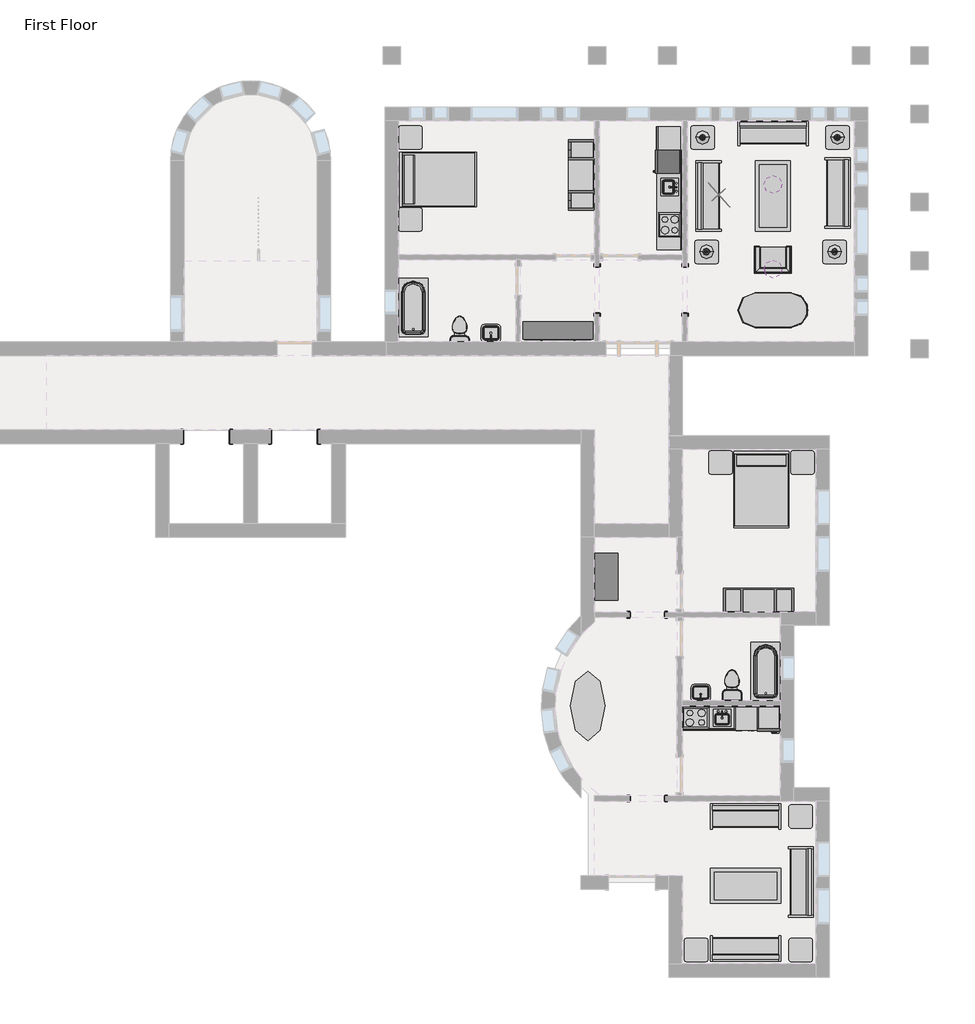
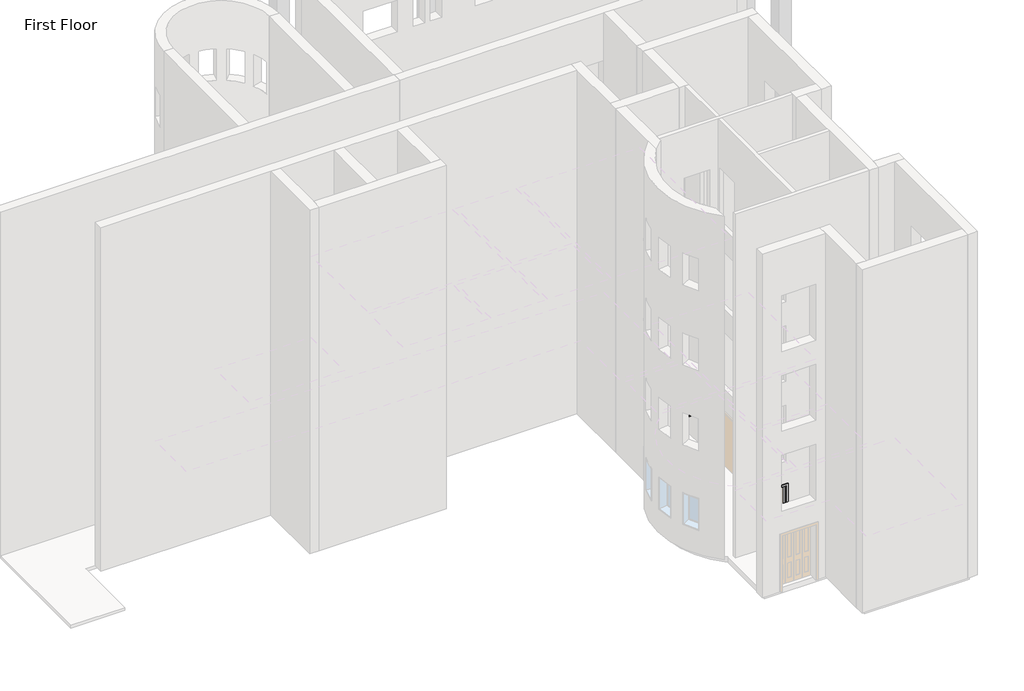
# One storey, part 8 of 8: 30 furniture elements, 15 proxies, 8 flow terminals, 6 light fixtures.
"""IFC4 building model written with IfcOpenShell, lengths in millimetres."""

from ifc_helpers import new_model, si_unit, origin, place, context, project, spatial, transform, mapped, element, save
from components import proxy_dfcd9396, proxy_3c49123c, proxy_7a545507, m_cook_top_4_unit2_0615_x_500mm_249f3515, m_dishwasher_610_x_610_x_875mm_54ecfc4c, m_kitchenette_medium_1372mm_e05c6bec, m_passage_opening_cased_0915_x_2134mm_b7ef4dee, m_refrigerator_600_x_660mm_a466bf94, proxy_f44482cc, proxy_c3589814, rpc_female_69e001fa, proxy_ec3341c2, m_sink_kitchen_island_450_x_450mm_f969cf2d, m_sink_vanity_square_500_x_440mm_1e229b74, m_toilet_domestic_3d_m_toilet_domestic_3d_5cb52bd4, m_toilet_domestic_3d_m_toilet_domestic_3d_183bbd19, m_tub_rectangular_3d_m_tub_rectangular_3d_3da3e62d, flow_terminal_41332a36, flow_terminal_62a433f7, toilet_domestic_3d_toilet_domestic_3d_f7549cf7, tub_rectangular_3d_tub_rectangular_3d_15036965, furniture_096e7f55, chair_corbu_chair_corbu_2764bdef, furniture_6db689a5, furniture_7c473f12, furniture_cf0b6580, m_counter_top_w_sink_hole_600mm_depth_08c4f679, m_dresser_1220_x_1525_x_0610mm_18e1f140, m_entertainment_center_1830_x_1830_x_0610mm_f77a9b93, m_sofa_1830mm_f9e8a66b, m_table_coffee_0915_x_1830_x_0457mm_134cd960, m_table_ellipse_1800_x_900mm_fd46d5a5, m_table_end_0610_x_0160mm_cb6ea12e, furniture_a4ffab56, furniture_cd93a443, furniture_2c34a4f9, furniture_3a588284, pendant_light_disk_100w_120v_c68bffb6, table_lamp_standard_60w_120v_6e8cd8b1

model = new_model("IFC4")

# Units and contexts
model_context = context("Model", 3, world=origin())
ifc_project = project(units=[si_unit("LENGTHUNIT", "METRE", prefix="MILLI")], contexts=[model_context])

# Site, building, storey
site = spatial("IfcSite", under=ifc_project)
building = spatial("IfcBuilding", under=site)
storey = spatial("IfcBuildingStorey", under=building, Name="First Floor", Elevation=0.0)

# Proxies
placement = place(None, origin())
proxy_shape = proxy_dfcd9396(model_context)
element("IfcBuildingElementProxy", 1, Name="Cook Top-4 Unit2 : 22\" x 20\"", ObjectType="Cook Top-4 Unit2 : 22\" x 20\"", at=placement, inside=storey, context=model_context, shape_type="MappedRepresentation", body=[
    mapped(proxy_shape, transform((-4167.1589563, 7568.5224391, 0.0), x_axis=(0.0, 1.0000000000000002, 0.0), y_axis=(-1.0000000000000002, 0.0, 0.0), z_axis=(0.0, 0.0, 1.0))),
])
proxy_2_shape = proxy_3c49123c(model_context)
element("IfcBuildingElementProxy", 2, Name="Dishwasher : 24\" x 24\" x 34\"", ObjectType="Dishwasher : 24\" x 24\" x 34\"", at=placement, inside=storey, context=model_context, shape_type="MappedRepresentation", body=[
    mapped(proxy_2_shape, transform((-4459.0085211, 9434.1049706, 0.0), x_axis=(0.0, 1.0000000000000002, 0.0), y_axis=(-1.0000000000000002, 0.0, 0.0), z_axis=(0.0, 0.0, 1.0))),
])
proxy_3_shape = proxy_7a545507(model_context)
element("IfcBuildingElementProxy", 3, Name="Kitchenette - Medium : 8'6\"", ObjectType="Kitchenette - Medium : 8'6\"", at=placement, inside=storey, context=model_context, shape_type="MappedRepresentation", body=[
    mapped(proxy_3_shape, transform((-3862.3589563, 8197.4847342, 0.0), x_axis=(0.0, 1.0000000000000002, 0.0), y_axis=(-1.0000000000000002, 0.0, 0.0), z_axis=(0.0, 0.0, 1.0))),
])
m_cook_top_4_unit2_0615_x_500mm_shape = m_cook_top_4_unit2_0615_x_500mm_249f3515(model_context)
element("IfcBuildingElementProxy", 4, Name="M_Cook Top-4 Unit2 : 0615 x 500mm", ObjectType="M_Cook Top-4 Unit2 : 0615 x 500mm", at=placement, inside=storey, context=model_context, shape_type="MappedRepresentation", body=[
    mapped(m_cook_top_4_unit2_0615_x_500mm_shape, transform((-3495.1714563, -5234.2683133, 0.0), x_axis=(1.0, 0.0, 0.0), y_axis=(0.0, 1.0, 0.0), z_axis=(0.0, 0.0, 1.0))),
])
m_dishwasher_610_x_610_x_875mm_shape = m_dishwasher_610_x_610_x_875mm_54ecfc4c(model_context)
element("IfcBuildingElementProxy", 5, Name="M_Dishwasher : 610 x 610 x 875mm", ObjectType="M_Dishwasher : 610 x 610 x 875mm", at=placement, inside=storey, context=model_context, shape_type="MappedRepresentation", body=[
    mapped(m_dishwasher_610_x_610_x_875mm_shape, transform((-2579.6889248, -5500.9178781, 0.0), x_axis=(1.0, 0.0, 0.0), y_axis=(0.0, 1.0, 0.0), z_axis=(0.0, 0.0, 1.0))),
])
m_kitchenette_medium_1372mm_shape = m_kitchenette_medium_1372mm_e05c6bec(model_context)
element("IfcBuildingElementProxy", 6, Name="M_Kitchenette - Medium : 1372mm", ObjectType="M_Kitchenette - Medium : 1372mm", at=placement, inside=storey, context=model_context, shape_type="MappedRepresentation", body=[
    mapped(m_kitchenette_medium_1372mm_shape, transform((-3170.9091612, -4929.2683133, 0.0), x_axis=(1.0, 0.0, 0.0), y_axis=(0.0, 1.0, 0.0), z_axis=(0.0, 0.0, 1.0))),
])
m_passage_opening_cased_0915_x_2134mm_shape = m_passage_opening_cased_0915_x_2134mm_b7ef4dee(model_context)
element("IfcBuildingElementProxy", 7, Name="M_Passage Opening-Cased : 0915 x 2134mm", ObjectType="M_Passage Opening-Cased : 0915 x 2134mm", at=placement, inside=storey, context=model_context, shape_type="MappedRepresentation", body=[
    mapped(m_passage_opening_cased_0915_x_2134mm_shape, transform((-4759.560113, -7332.1683133, 0.0), x_axis=(-1.0, 0.0, 0.0), y_axis=(0.0, -1.0, 0.0), z_axis=(0.0, 0.0, 1.0))),
])
element("IfcBuildingElementProxy", 8, Name="M_Passage Opening-Cased : 0915 x 2134mm", ObjectType="M_Passage Opening-Cased : 0915 x 2134mm", at=placement, inside=storey, context=model_context, shape_type="MappedRepresentation", body=[
    mapped(m_passage_opening_cased_0915_x_2134mm_shape, transform((-4759.560113, -2560.1683133, 0.0), x_axis=(-1.0, 0.0, 0.0), y_axis=(0.0, -1.0, 0.0), z_axis=(0.0, 0.0, 1.0))),
])
m_refrigerator_600_x_660mm_shape = m_refrigerator_600_x_660mm_a466bf94(model_context)
element("IfcBuildingElementProxy", 9, Name="M_Refrigerator : 600 x 660mm", ObjectType="M_Refrigerator : 600 x 660mm", at=placement, inside=storey, context=model_context, shape_type="MappedRepresentation", body=[
    mapped(m_refrigerator_600_x_660mm_shape, transform((-1538.3703137, -5225.4834035, 0.0), x_axis=(1.0, 0.0, 0.0), y_axis=(0.0, 1.0, 0.0), z_axis=(0.0, 0.0, 1.0))),
])
proxy_4_shape = proxy_f44482cc(model_context)
element("IfcBuildingElementProxy", 10, Name="Opening-Cased : 48\" x 84\"", ObjectType="Opening-Cased : 48\" x 84\"", at=placement, inside=storey, context=model_context, shape_type="MappedRepresentation", body=[
    mapped(proxy_4_shape, transform((-3773.4589563, 5882.4203434, 0.0), x_axis=(0.0, 1.0, 0.0), y_axis=(-1.0, 0.0, 0.0), z_axis=(0.0, 0.0, 1.0))),
])
element("IfcBuildingElementProxy", 11, Name="Opening-Cased : 48\" x 84\"", ObjectType="Opening-Cased : 48\" x 84\"", at=placement, inside=storey, context=model_context, shape_type="MappedRepresentation", body=[
    mapped(proxy_4_shape, transform((-6059.4589563, 5866.04303, 0.0), x_axis=(0.0, -1.0, 0.0), y_axis=(1.0, 0.0, 0.0), z_axis=(0.0, 0.0, 1.0))),
])
proxy_5_shape = proxy_c3589814(model_context)
element("IfcBuildingElementProxy", 12, Name="Opening-Cased : 48\" x 84\"", ObjectType="Opening-Cased : 48\" x 84\"", at=placement, inside=storey, context=model_context, shape_type="MappedRepresentation", body=[
    mapped(proxy_5_shape, transform((-16213.360113, 2064.2316867, 0.0), x_axis=(-1.0, 0.0, 0.0), y_axis=(0.0, -1.0, 0.0), z_axis=(0.0, 0.0, 1.0))),
])
element("IfcBuildingElementProxy", 13, Name="Opening-Cased : 48\" x 84\"", ObjectType="Opening-Cased : 48\" x 84\"", at=placement, inside=storey, context=model_context, shape_type="MappedRepresentation", body=[
    mapped(proxy_5_shape, transform((-13927.360113, 2064.2316867, 0.0), x_axis=(-1.0, 0.0, 0.0), y_axis=(0.0, -1.0, 0.0), z_axis=(0.0, 0.0, 1.0))),
])
rpc_female_shape = rpc_female_69e001fa(model_context)
element("IfcBuildingElementProxy", 14, Name="RPC Female : Cynthia", ObjectType="RPC Female : Cynthia", at=placement, inside=storey, context=model_context, shape_type="MappedRepresentation", body=[
    mapped(rpc_female_shape, transform((-2793.743807, 8229.6, -0.79375), x_axis=(0.74728204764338, 0.6645069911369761, 0.0), y_axis=(-0.6645069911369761, 0.74728204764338, 0.0), z_axis=(0.0, 0.0, 1.0))),
])
proxy_6_shape = proxy_ec3341c2(model_context)
element("IfcBuildingElementProxy", 15, Name="Refrigerator : 24\" x 25\" LH", ObjectType="Refrigerator : 24\" x 25\" LH", at=placement, inside=storey, context=model_context, shape_type="MappedRepresentation", body=[
    mapped(proxy_6_shape, transform((-4212.8079278, 9200.4724391, 0.0), x_axis=(0.0, 1.0000000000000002, 0.0), y_axis=(-1.0000000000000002, 0.0, 0.0), z_axis=(0.0, 0.0, 1.0))),
])

# Flow terminals
m_sink_kitchen_island_450_x_450mm_shape = m_sink_kitchen_island_450_x_450mm_f969cf2d(model_context)
element("IfcFlowTerminal", 16, ObjectType="M_Sink Kitchen-Island : 450 x 450mm", at=placement, inside=storey, context=model_context, shape_type="MappedRepresentation", body=[
    mapped(m_sink_kitchen_island_450_x_450mm_shape, transform((-2824.8606969, -5236.6137144, 0.0), x_axis=(1.0, 0.0, 0.0), y_axis=(0.0, 1.0, 0.0), z_axis=(0.0, 0.0, 1.0))),
])
m_sink_vanity_square_500_x_440mm_shape = m_sink_vanity_square_500_x_440mm_1e229b74(model_context)
element("IfcFlowTerminal", 17, ObjectType="M_Sink Vanity-Square : 500 x 440mm", at=placement, inside=storey, context=model_context, shape_type="MappedRepresentation", body=[
    mapped(m_sink_vanity_square_500_x_440mm_shape, transform((-3349.2572157, -4621.7229122, 0.0), x_axis=(-1.0, 0.0, 0.0), y_axis=(0.0, -1.0, 0.0), z_axis=(0.0, 0.0, 1.0))),
])
m_toilet_domestic_3d_m_toilet_domestic_3d_shape = m_toilet_domestic_3d_m_toilet_domestic_3d_5cb52bd4(model_context)
m_toilet_domestic_3d_m_toilet_domestic_3d_2_shape = m_toilet_domestic_3d_m_toilet_domestic_3d_183bbd19(model_context)
element("IfcFlowTerminal", 18, ObjectType="M_Toilet-Domestic-3D : M_Toilet-Domestic-3D", at=placement, inside=storey, context=model_context, shape_type="MappedRepresentation", body=[
    mapped(m_toilet_domestic_3d_m_toilet_domestic_3d_shape, transform((-2552.025429, -4299.072286, 0.0), x_axis=(-1.0, 0.0, 0.0), y_axis=(0.0, -1.0, 0.0), z_axis=(0.0, 0.0, 1.0))),
    mapped(m_toilet_domestic_3d_m_toilet_domestic_3d_2_shape, transform((-2552.025429, -4299.072286, 0.0), x_axis=(-1.0, 0.0, 0.0), y_axis=(0.0, -1.0, 0.0), z_axis=(0.0, 0.0, 1.0))),
])
m_tub_rectangular_3d_m_tub_rectangular_3d_shape = m_tub_rectangular_3d_m_tub_rectangular_3d_3da3e62d(model_context)
element("IfcFlowTerminal", 19, ObjectType="M_Tub-Rectangular-3D : M_Tub-Rectangular-3D", at=placement, inside=storey, context=model_context, shape_type="MappedRepresentation", body=[
    mapped(m_tub_rectangular_3d_m_tub_rectangular_3d_shape, transform((-1117.5714563, -3683.1653446, 0.0), x_axis=(0.0, 1.0, 0.0), y_axis=(-1.0, 0.0, 0.0), z_axis=(0.0, 0.0, 1.0))),
])
flow_terminal_shape = flow_terminal_41332a36(model_context)
element("IfcFlowTerminal", 20, ObjectType="Sink Kitchen-Island : 18\" x 18\"", at=placement, inside=storey, context=model_context, shape_type="MappedRepresentation", body=[
    mapped(flow_terminal_shape, transform((-4169.5043574, 8530.7331986, -14.4), x_axis=(0.0, 1.0000000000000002, 0.0), y_axis=(-1.0000000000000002, 0.0, 0.0), z_axis=(0.0, 0.0, 1.0))),
])
flow_terminal_2_shape = flow_terminal_62a433f7(model_context)
element("IfcFlowTerminal", 21, ObjectType="Sink Vanity-Square : 20\" x 18\"", at=placement, inside=storey, context=model_context, shape_type="MappedRepresentation", body=[
    mapped(flow_terminal_2_shape, transform((-8801.2572158, 4706.5895878, 0.0), x_axis=(-1.0, 0.0, 0.0), y_axis=(0.0, -1.0, 0.0), z_axis=(0.0, 0.0, 1.0))),
])
toilet_domestic_3d_toilet_domestic_3d_shape = toilet_domestic_3d_toilet_domestic_3d_f7549cf7(model_context)
element("IfcFlowTerminal", 22, ObjectType="Toilet-Domestic-3D : Toilet-Domestic-3D", at=placement, inside=storey, context=model_context, shape_type="MappedRepresentation", body=[
    mapped(toilet_domestic_3d_toilet_domestic_3d_shape, transform((-9629.7464563, 4894.7441867, 0.0), x_axis=(-1.0, 0.0, 0.0), y_axis=(0.0, -1.0, 0.0), z_axis=(0.0, 0.0, 1.0))),
    mapped(m_toilet_domestic_3d_m_toilet_domestic_3d_2_shape, transform((-9629.7464563, 4894.7441867, 0.0), x_axis=(-1.0, 0.0, 0.0), y_axis=(0.0, -1.0, 0.0), z_axis=(0.0, 0.0, 1.0))),
])
tub_rectangular_3d_tub_rectangular_3d_shape = tub_rectangular_3d_tub_rectangular_3d_15036965(model_context)
element("IfcFlowTerminal", 23, ObjectType="Tub-Rectangular-3D : Tub-Rectangular-3D", at=placement, inside=storey, context=model_context, shape_type="MappedRepresentation", body=[
    mapped(tub_rectangular_3d_tub_rectangular_3d_shape, transform((-11393.4589563, 5765.6346554, 0.0), x_axis=(0.0, 1.0, 0.0), y_axis=(-1.0, 0.0, 0.0), z_axis=(0.0, 0.0, 1.0))),
])

# Furniture
furniture_shape = furniture_096e7f55(model_context)
element("IfcFurniture", 24, ObjectType="Bed-Shaker : Double 56\" x 78\"", at=placement, inside=storey, context=model_context, shape_type="MappedRepresentation", body=[
    mapped(furniture_shape, transform((-11172.0857802, 8763.4816867, 0.0), x_axis=(0.0, 1.0, 0.0), y_axis=(-1.0, 0.0, 0.0), z_axis=(0.0, 0.0, 1.0))),
])
chair_corbu_chair_corbu_shape = chair_corbu_chair_corbu_2764bdef(model_context)
element("IfcFurniture", 25, ObjectType="Chair-Corbu : Chair-Corbu", at=placement, inside=storey, context=model_context, shape_type="MappedRepresentation", body=[
    mapped(chair_corbu_chair_corbu_shape, transform((-914.0851858, 7126.8212359, 0.0), x_axis=(-1.0, 0.0, 0.0), y_axis=(0.0, -1.0, 0.0), z_axis=(0.0, 0.0, 1.0))),
])
furniture_2_shape = furniture_6db689a5(model_context)
element("IfcFurniture", 26, ObjectType="Counter Top w Sink Hole : 24\" Depth", at=placement, inside=storey, context=model_context, shape_type="MappedRepresentation", body=[
    mapped(furniture_2_shape, transform((-3862.3589563, 8121.2847342, -14.4), x_axis=(0.0, 1.0000000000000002, 0.0), y_axis=(-1.0000000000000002, 0.0, 0.0), z_axis=(0.0, 0.0, 1.0))),
])
furniture_3_shape = furniture_7c473f12(model_context)
element("IfcFurniture", 27, ObjectType="Dresser : 72\" x 60\" x 18\"", at=placement, inside=storey, context=model_context, shape_type="MappedRepresentation", body=[
    mapped(furniture_3_shape, transform((-6806.2656965, 5181.7071408, 0.0), x_axis=(1.0, 0.0, 0.0), y_axis=(0.0, 1.0, 0.0), z_axis=(0.0, 0.0, 1.0))),
])
furniture_4_shape = furniture_cf0b6580(model_context)
element("IfcFurniture", 28, ObjectType="Entertainment Center : 72\" x 72\" x 24\"", at=placement, inside=storey, context=model_context, shape_type="MappedRepresentation", body=[
    mapped(furniture_4_shape, transform((-6021.3589563, 8857.1441867, 0.0), x_axis=(0.0, -1.0, 0.0), y_axis=(1.0, 0.0, 0.0), z_axis=(0.0, 0.0, 1.0))),
])
element("IfcFurniture", 29, ObjectType="M_Bed-Shaker : 1422 x 1981mm - Double", at=placement, inside=storey, context=model_context, shape_type="MappedRepresentation", body=[
    mapped(furniture_shape, transform((-1770.3214563, 1676.8316867, 0.0), x_axis=(1.0, 0.0, 0.0), y_axis=(0.0, 1.0, 0.0), z_axis=(0.0, 0.0, 1.0))),
])
m_counter_top_w_sink_hole_600mm_depth_shape = m_counter_top_w_sink_hole_600mm_depth_08c4f679(model_context)
element("IfcFurniture", 30, ObjectType="M_Counter Top w Sink Hole : 600mm Depth", at=placement, inside=storey, context=model_context, shape_type="MappedRepresentation", body=[
    mapped(m_counter_top_w_sink_hole_600mm_depth_shape, transform((-2637.7091612, -4929.2683133, 0.0), x_axis=(1.0, 0.0, 0.0), y_axis=(0.0, 1.0, 0.0), z_axis=(0.0, 0.0, 1.0))),
])
m_dresser_1220_x_1525_x_0610mm_shape = m_dresser_1220_x_1525_x_0610mm_18e1f140(model_context)
element("IfcFurniture", 31, ObjectType="M_Dresser : 1220 x 1525 x 0610mm", at=placement, inside=storey, context=model_context, shape_type="MappedRepresentation", body=[
    mapped(m_dresser_1220_x_1525_x_0610mm_shape, transform((-5456.0085022, -1844.3615731, 0.0), x_axis=(0.0, -1.0, 0.0), y_axis=(1.0, 0.0, 0.0), z_axis=(0.0, 0.0, 1.0))),
])
m_entertainment_center_1830_x_1830_x_0610mm_shape = m_entertainment_center_1830_x_1830_x_0610mm_f77a9b93(model_context)
element("IfcFurniture", 32, ObjectType="M_Entertainment center : 1830 x 1830 x 0610mm", at=placement, inside=storey, context=model_context, shape_type="MappedRepresentation", body=[
    mapped(m_entertainment_center_1830_x_1830_x_0610mm_shape, transform((-1857.5714563, -1773.7683133, 0.0), x_axis=(1.0, 0.0, 0.0), y_axis=(0.0, 1.0, 0.0), z_axis=(0.0, 0.0, 1.0))),
])
m_sofa_1830mm_shape = m_sofa_1830mm_f9e8a66b(model_context)
element("IfcFurniture", 33, ObjectType="M_Sofa : 1830mm", at=placement, inside=storey, context=model_context, shape_type="MappedRepresentation", body=[
    mapped(m_sofa_1830mm_shape, transform((-909.3255547, -9428.7978215, 0.0), x_axis=(0.0, -1.0, 0.0), y_axis=(1.0, 0.0, 0.0), z_axis=(0.0, 0.0, 1.0))),
])
element("IfcFurniture", 34, ObjectType="M_Sofa : 1830mm", at=placement, inside=storey, context=model_context, shape_type="MappedRepresentation", body=[
    mapped(m_sofa_1830mm_shape, transform((-2268.5419481, -7946.0724117, 0.0), x_axis=(1.0, 0.0, 0.0), y_axis=(0.0, 1.0, 0.0), z_axis=(0.0, 0.0, 1.0))),
])
element("IfcFurniture", 35, ObjectType="M_Sofa : 1830mm", at=placement, inside=storey, context=model_context, shape_type="MappedRepresentation", body=[
    mapped(m_sofa_1830mm_shape, transform((-2127.8009645, -11083.014215, 0.0), x_axis=(-1.0, 0.0, 0.0), y_axis=(0.0, -1.0, 0.0), z_axis=(0.0, 0.0, 1.0))),
])
m_table_coffee_0915_x_1830_x_0457mm_shape = m_table_coffee_0915_x_1830_x_0457mm_134cd960(model_context)
element("IfcFurniture", 36, ObjectType="M_Table-Coffee : 0915 x 1830 x 0457mm", at=placement, inside=storey, context=model_context, shape_type="MappedRepresentation", body=[
    mapped(m_table_coffee_0915_x_1830_x_0457mm_shape, transform((-2216.437223, -9695.1293911, 0.0), x_axis=(1.0, 0.0, 0.0), y_axis=(0.0, 1.0, 0.0), z_axis=(0.0, 0.0, 1.0))),
])
m_table_ellipse_1800_x_900mm_shape = m_table_ellipse_1800_x_900mm_fd46d5a5(model_context)
element("IfcFurniture", 37, ObjectType="M_Table-Ellipse : 1800 x 900mm", at=placement, inside=storey, context=model_context, shape_type="MappedRepresentation", body=[
    mapped(m_table_ellipse_1800_x_900mm_shape, transform((-6299.1714563, -4929.2683133, 0.0), x_axis=(0.0, -1.0, 0.0), y_axis=(1.0, 0.0, 0.0), z_axis=(0.0, 0.0, 1.0))),
])
m_table_end_0610_x_0160mm_shape = m_table_end_0610_x_0160mm_cb6ea12e(model_context)
element("IfcFurniture", 38, ObjectType="M_Table-End : 0610 x 0160mm", at=placement, inside=storey, context=model_context, shape_type="MappedRepresentation", body=[
    mapped(m_table_end_0610_x_0160mm_shape, transform((-875.5714563, 1701.315317, 0.0), x_axis=(0.0, -1.0, 0.0), y_axis=(1.0, 0.0, 0.0), z_axis=(0.0, 0.0, 1.0))),
])
element("IfcFurniture", 39, ObjectType="M_Table-End : 0610 x 0160mm", at=placement, inside=storey, context=model_context, shape_type="MappedRepresentation", body=[
    mapped(m_table_end_0610_x_0160mm_shape, transform((-2995.5714563, 1701.315317, 0.0), x_axis=(0.0, -1.0, 0.0), y_axis=(1.0, 0.0, 0.0), z_axis=(0.0, 0.0, 1.0))),
])
element("IfcFurniture", 40, ObjectType="M_Table-End : 0610 x 0160mm", at=placement, inside=storey, context=model_context, shape_type="MappedRepresentation", body=[
    mapped(m_table_end_0610_x_0160mm_shape, transform((-915.5714563, -7485.434683, 0.0), x_axis=(0.0, -1.0, 0.0), y_axis=(1.0, 0.0, 0.0), z_axis=(0.0, 0.0, 1.0))),
])
element("IfcFurniture", 41, ObjectType="M_Table-End : 0610 x 0160mm", at=placement, inside=storey, context=model_context, shape_type="MappedRepresentation", body=[
    mapped(m_table_end_0610_x_0160mm_shape, transform((-915.5714563, -10955.434683, 0.0), x_axis=(0.0, -1.0, 0.0), y_axis=(1.0, 0.0, 0.0), z_axis=(0.0, 0.0, 1.0))),
])
element("IfcFurniture", 42, ObjectType="M_Table-End : 0610 x 0160mm", at=placement, inside=storey, context=model_context, shape_type="MappedRepresentation", body=[
    mapped(m_table_end_0610_x_0160mm_shape, transform((-3635.5714563, -10955.434683, 0.0), x_axis=(0.0, -1.0, 0.0), y_axis=(1.0, 0.0, 0.0), z_axis=(0.0, 0.0, 1.0))),
])
furniture_5_shape = furniture_a4ffab56(model_context)
element("IfcFurniture", 43, ObjectType="Sofa : 72\"", at=placement, inside=storey, context=model_context, shape_type="MappedRepresentation", body=[
    mapped(furniture_5_shape, transform((-3017.704858, 8242.2611949, 0.0), x_axis=(0.0, 1.0, 0.0), y_axis=(-1.0, 0.0, 0.0), z_axis=(0.0, 0.0, 1.0))),
])
element("IfcFurniture", 44, ObjectType="Sofa : 72\"", at=placement, inside=storey, context=model_context, shape_type="MappedRepresentation", body=[
    mapped(furniture_5_shape, transform((-1557.8294481, 9801.5748071, 0.0), x_axis=(1.0, 0.0, 0.0), y_axis=(0.0, 1.0, 0.0), z_axis=(0.0, 0.0, 1.0))),
])
element("IfcFurniture", 45, ObjectType="Sofa : 72\"", at=placement, inside=storey, context=model_context, shape_type="MappedRepresentation", body=[
    mapped(furniture_5_shape, transform((42.7869453, 8470.3146785, 0.0), x_axis=(0.0, -1.0, 0.0), y_axis=(1.0, 0.0, 0.0), z_axis=(0.0, 0.0, 1.0))),
])
furniture_6_shape = furniture_cd93a443(model_context)
element("IfcFurniture", 46, ObjectType="Table-Coffee : 36\" x 72\" x 18\"", at=placement, inside=storey, context=model_context, shape_type="MappedRepresentation", body=[
    mapped(furniture_6_shape, transform((-1392.2478785, 8294.36592, 0.0), x_axis=(0.0, 1.0, 0.0), y_axis=(-1.0, 0.0, 0.0), z_axis=(0.0, 0.0, 1.0))),
])
furniture_7_shape = furniture_2c34a4f9(model_context)
element("IfcFurniture", 47, ObjectType="Table-Dining Oval : 36\" x 72\"", at=placement, inside=storey, context=model_context, shape_type="MappedRepresentation", body=[
    mapped(furniture_7_shape, transform((-1085.6392842, 5710.0425473, 0.0), x_axis=(1.0, 0.0, 0.0), y_axis=(0.0, 1.0, 0.0), z_axis=(0.0, 0.0, 1.0))),
])
furniture_8_shape = furniture_3a588284(model_context)
element("IfcFurniture", 48, ObjectType="Table-End : 24\" x 24\"", at=placement, inside=storey, context=model_context, shape_type="MappedRepresentation", body=[
    mapped(furniture_8_shape, transform((-119.5925866, 9684.2316867, 0.0), x_axis=(1.0, 0.0, 0.0), y_axis=(0.0, 1.0, 0.0), z_axis=(0.0, 0.0, 1.0))),
])
element("IfcFurniture", 49, ObjectType="Table-End : 24\" x 24\"", at=placement, inside=storey, context=model_context, shape_type="MappedRepresentation", body=[
    mapped(furniture_8_shape, transform((-11220.9800866, 7550.6316867, 0.0), x_axis=(1.0, 0.0, 0.0), y_axis=(0.0, 1.0, 0.0), z_axis=(0.0, 0.0, 1.0))),
])
element("IfcFurniture", 50, ObjectType="Table-End : 24\" x 24\"", at=placement, inside=storey, context=model_context, shape_type="MappedRepresentation", body=[
    mapped(furniture_8_shape, transform((-11220.9800866, 9684.2316867, 0.0), x_axis=(1.0, 0.0, 0.0), y_axis=(0.0, 1.0, 0.0), z_axis=(0.0, 0.0, 1.0))),
])
element("IfcFurniture", 51, ObjectType="Table-End : 24\" x 24\"", at=placement, inside=storey, context=model_context, shape_type="MappedRepresentation", body=[
    mapped(furniture_8_shape, transform((-3624.7925866, 9684.2316867, 0.0), x_axis=(1.0, 0.0, 0.0), y_axis=(0.0, 1.0, 0.0), z_axis=(0.0, 0.0, 1.0))),
])
element("IfcFurniture", 52, ObjectType="Table-End : 24\" x 24\"", at=placement, inside=storey, context=model_context, shape_type="MappedRepresentation", body=[
    mapped(furniture_8_shape, transform((-3521.0782623, 6714.242027, 0.0), x_axis=(1.0, 0.0, 0.0), y_axis=(0.0, 1.0, 0.0), z_axis=(0.0, 0.0, 1.0))),
])
element("IfcFurniture", 53, ObjectType="Table-End : 24\" x 24\"", at=placement, inside=storey, context=model_context, shape_type="MappedRepresentation", body=[
    mapped(furniture_8_shape, transform((-193.6782623, 6714.242027, 0.0), x_axis=(1.0, 0.0, 0.0), y_axis=(0.0, 1.0, 0.0), z_axis=(0.0, 0.0, 1.0))),
])

# Light fixtures
pendant_light_disk_100w_120v_shape = pendant_light_disk_100w_120v_c68bffb6(model_context)
element("IfcLightFixture", 54, ObjectType="Pendant Light - Disk : 100W - 120V", at=placement, inside=storey, context=model_context, shape_type="MappedRepresentation", body=[
    mapped(pendant_light_disk_100w_120v_shape, transform((-1487.4589563, 8617.4316867, 152.3999938), x_axis=(1.0, 0.0, 0.0), y_axis=(0.0, 1.0, 0.0), z_axis=(0.0, 0.0, 1.0))),
])
element("IfcLightFixture", 55, ObjectType="Pendant Light - Disk : 100W - 120V", at=placement, inside=storey, context=model_context, shape_type="MappedRepresentation", body=[
    mapped(pendant_light_disk_100w_120v_shape, transform((-1487.4589563, 6418.7441867, 152.3999938), x_axis=(1.0, 0.0, 0.0), y_axis=(0.0, 1.0, 0.0), z_axis=(0.0, 0.0, 1.0))),
])
table_lamp_standard_60w_120v_shape = table_lamp_standard_60w_120v_6e8cd8b1(model_context)
element("IfcLightFixture", 56, ObjectType="Table Lamp - Standard : 60W - 120V", at=placement, inside=storey, context=model_context, shape_type="MappedRepresentation", body=[
    mapped(table_lamp_standard_60w_120v_shape, transform((-3316.2589563, 9836.6316867, 381.0), x_axis=(1.0, 0.0, 0.0), y_axis=(0.0, 1.0, 0.0), z_axis=(0.0, 0.0, 1.0))),
])
element("IfcLightFixture", 57, ObjectType="Table Lamp - Standard : 60W - 120V", at=placement, inside=storey, context=model_context, shape_type="MappedRepresentation", body=[
    mapped(table_lamp_standard_60w_120v_shape, transform((188.9410437, 9836.6316867, 381.0), x_axis=(1.0, 0.0, 0.0), y_axis=(0.0, 1.0, 0.0), z_axis=(0.0, 0.0, 1.0))),
])
element("IfcLightFixture", 58, ObjectType="Table Lamp - Standard : 60W - 120V", at=placement, inside=storey, context=model_context, shape_type="MappedRepresentation", body=[
    mapped(table_lamp_standard_60w_120v_shape, transform((-3212.544632, 6866.642027, 381.0), x_axis=(1.0, 0.0, 0.0), y_axis=(0.0, 1.0, 0.0), z_axis=(0.0, 0.0, 1.0))),
])
element("IfcLightFixture", 59, ObjectType="Table Lamp - Standard : 60W - 120V", at=placement, inside=storey, context=model_context, shape_type="MappedRepresentation", body=[
    mapped(table_lamp_standard_60w_120v_shape, transform((114.855368, 6866.642027, 381.0), x_axis=(1.0, 0.0, 0.0), y_axis=(0.0, 1.0, 0.0), z_axis=(0.0, 0.0, 1.0))),
])

save(model, "model.ifc")
